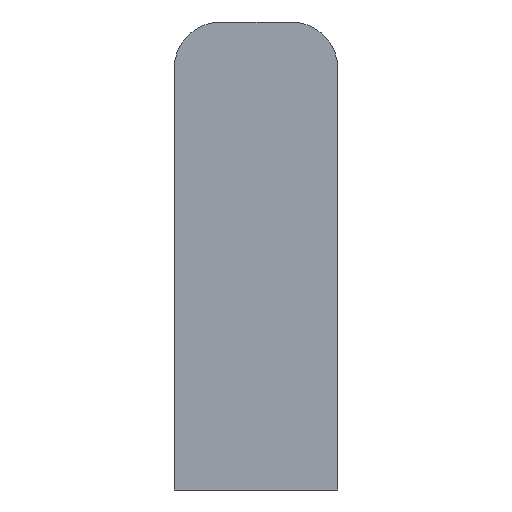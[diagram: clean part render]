
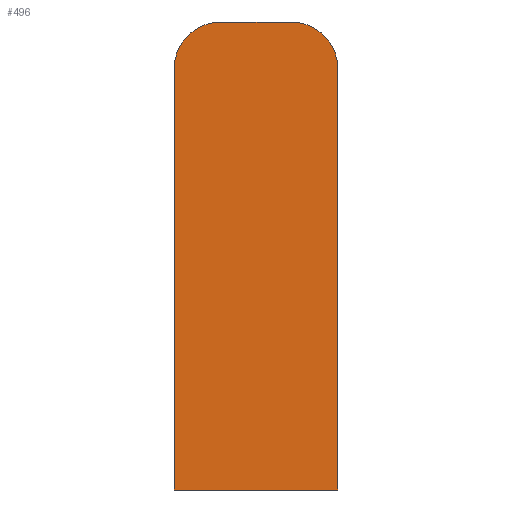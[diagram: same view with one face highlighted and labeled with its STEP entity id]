
A CAD part, front view. The second image highlights one B-rep face of the part: STEP entity #496.
In plain terms, the highlighted planar face has unit normal (0, -1, 0).
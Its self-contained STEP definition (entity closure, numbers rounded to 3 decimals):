
#4 = VERTEX_POINT ( 'NONE', #550 ) ;
#27 = VERTEX_POINT ( 'NONE', #39 ) ;
#39 = CARTESIAN_POINT ( 'NONE',  ( 5.25, 0., 10.5 ) ) ;
#67 = PLANE ( 'NONE',  #671 ) ;
#77 = CARTESIAN_POINT ( 'NONE',  ( 0., 0., -1.5 ) ) ;
#83 = DIRECTION ( 'NONE',  ( 0., 1., 0. ) ) ;
#84 = DIRECTION ( 'NONE',  ( -1., 0., 0. ) ) ;
#131 = CARTESIAN_POINT ( 'NONE',  ( 2.25, 0., 13.5 ) ) ;
#132 = CARTESIAN_POINT ( 'NONE',  ( -2.25, 0., 13.5 ) ) ;
#133 = CARTESIAN_POINT ( 'NONE',  ( -5.25, 0., -16.5 ) ) ;
#134 = CARTESIAN_POINT ( 'NONE',  ( 5.25, 0., -16.5 ) ) ;
#145 = CARTESIAN_POINT ( 'NONE',  ( 5.25, 0., -16.5 ) ) ;
#146 = DIRECTION ( 'NONE',  ( 0., 0., 1. ) ) ;
#157 = CARTESIAN_POINT ( 'NONE',  ( -2.25, 0., 10.5 ) ) ;
#158 = DIRECTION ( 'NONE',  ( 0., -1., 0. ) ) ;
#159 = DIRECTION ( 'NONE',  ( -1., 0., 0. ) ) ;
#168 = CARTESIAN_POINT ( 'NONE',  ( 5.25, 0., -16.5 ) ) ;
#169 = DIRECTION ( 'NONE',  ( 1., 0., 0. ) ) ;
#222 = CARTESIAN_POINT ( 'NONE',  ( 2.25, 0., 10.5 ) ) ;
#226 = CARTESIAN_POINT ( 'NONE',  ( 2.25, 0., 13.5 ) ) ;
#227 = DIRECTION ( 'NONE',  ( -1., 0., 0. ) ) ;
#235 = DIRECTION ( 'NONE',  ( 0., -1., 0. ) ) ;
#236 = DIRECTION ( 'NONE',  ( -1., 0., 0. ) ) ;
#237 = CARTESIAN_POINT ( 'NONE',  ( -5.25, 0., -16.5 ) ) ;
#238 = DIRECTION ( 'NONE',  ( 0., 0., -1. ) ) ;
#315 = ORIENTED_EDGE ( 'NONE', *, *, #627, .T. ) ;
#414 = LINE ( 'NONE', #145, #453 ) ;
#435 = FACE_OUTER_BOUND ( 'NONE', #458, .T. ) ;
#453 = VECTOR ( 'NONE', #146, 1000. ) ;
#458 = EDGE_LOOP ( 'NONE', ( #315, #461, #460, #464, #462, #463 ) ) ;
#460 = ORIENTED_EDGE ( 'NONE', *, *, #685, .T. ) ;
#461 = ORIENTED_EDGE ( 'NONE', *, *, #697, .T. ) ;
#462 = ORIENTED_EDGE ( 'NONE', *, *, #698, .T. ) ;
#463 = ORIENTED_EDGE ( 'NONE', *, *, #638, .T. ) ;
#464 = ORIENTED_EDGE ( 'NONE', *, *, #633, .T. ) ;
#496 = ADVANCED_FACE ( 'NONE', ( #435 ), #67, .F. ) ;
#536 = VERTEX_POINT ( 'NONE', #131 ) ;
#537 = VERTEX_POINT ( 'NONE', #132 ) ;
#538 = VERTEX_POINT ( 'NONE', #133 ) ;
#539 = VERTEX_POINT ( 'NONE', #134 ) ;
#550 = CARTESIAN_POINT ( 'NONE',  ( -5.25, 0., 10.5 ) ) ;
#565 = CIRCLE ( 'NONE', #655, 3. ) ;
#570 = VECTOR ( 'NONE', #238, 1000. ) ;
#572 = VECTOR ( 'NONE', #227, 1000. ) ;
#573 = LINE ( 'NONE', #226, #572 ) ;
#574 = LINE ( 'NONE', #237, #570 ) ;
#596 = CIRCLE ( 'NONE', #675, 3. ) ;
#622 = VECTOR ( 'NONE', #169, 1000. ) ;
#623 = LINE ( 'NONE', #168, #622 ) ;
#627 = EDGE_CURVE ( 'NONE', #539, #27, #414, .T. ) ;
#633 = EDGE_CURVE ( 'NONE', #537, #4, #596, .T. ) ;
#638 = EDGE_CURVE ( 'NONE', #538, #539, #623, .T. ) ;
#655 = AXIS2_PLACEMENT_3D ( 'NONE', #222, #235, #236 ) ;
#671 = AXIS2_PLACEMENT_3D ( 'NONE', #77, #83, #84 ) ;
#675 = AXIS2_PLACEMENT_3D ( 'NONE', #157, #158, #159 ) ;
#685 = EDGE_CURVE ( 'NONE', #536, #537, #573, .T. ) ;
#697 = EDGE_CURVE ( 'NONE', #27, #536, #565, .T. ) ;
#698 = EDGE_CURVE ( 'NONE', #4, #538, #574, .T. ) ;
